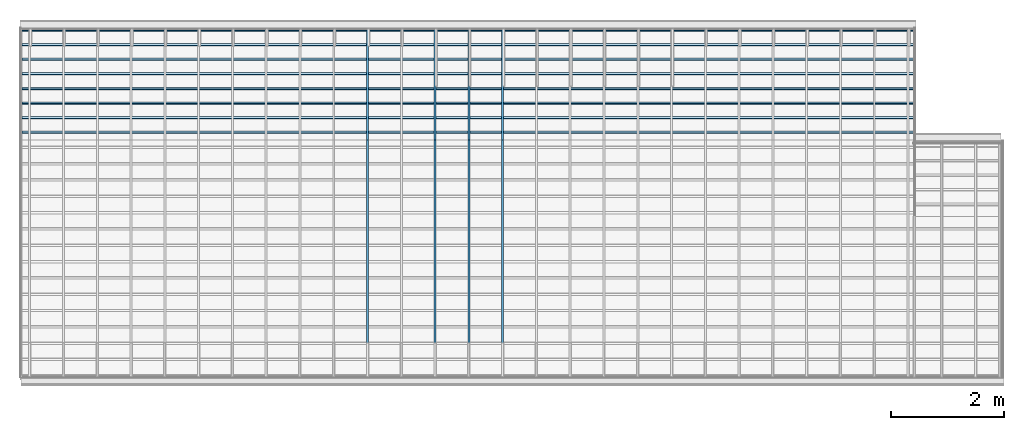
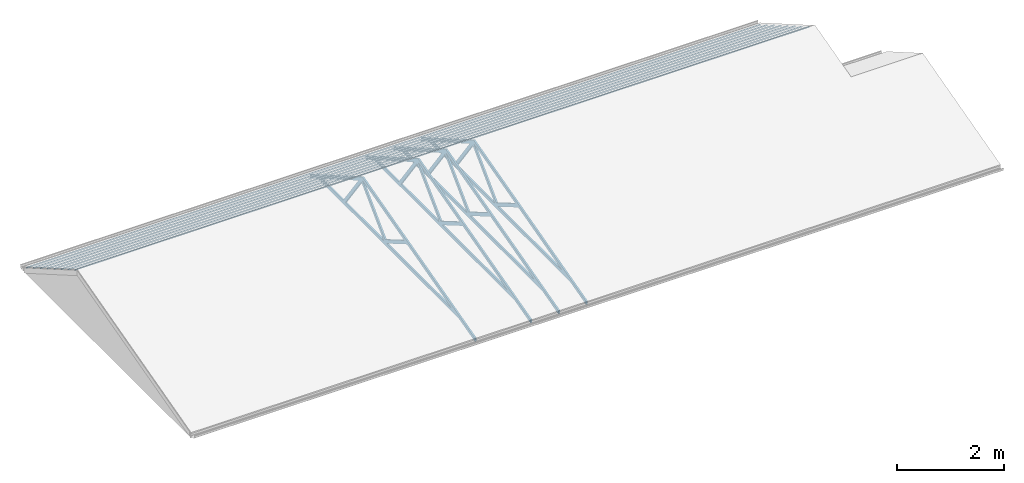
# One storey, part 5 of 12: 5 slabs.
"""IFC2X3 building model written with IfcOpenShell, lengths in millimetres."""

from ifc_helpers import new_model, entity, si_unit, converted_unit, money_unit, direction, frame, origin_with_axes, place, context, subcontext, project, spatial, faceted_brep, source, transform, mapped, material, type_object, element, save


model = new_model("IFC2X3")

# Units and contexts
model_context = context("Model", 3, precision=1e-05, world=origin_with_axes(), true_north=direction((0.0, 1.0)))
body_context = subcontext(model_context, "Body", "Model", "MODEL_VIEW")
ifc_project = project(units=[si_unit("LENGTHUNIT", "METRE", prefix="MILLI"), si_unit("AREAUNIT", "SQUARE_METRE"), si_unit("VOLUMEUNIT", "CUBIC_METRE"), converted_unit("PLANEANGLEUNIT", "DEGREE", entity("IfcPlaneAngleMeasure", 0.0174532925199), si_unit("PLANEANGLEUNIT", "RADIAN"), dimensions=[0, 0, 0, 0, 0, 0, 0]), si_unit("SOLIDANGLEUNIT", "STERADIAN"), money_unit("AUD"), si_unit("TIMEUNIT", "SECOND"), si_unit("MASSUNIT", "GRAM"), si_unit("THERMODYNAMICTEMPERATUREUNIT", "DEGREE_CELSIUS"), si_unit("LUMINOUSINTENSITYUNIT", "LUMEN")], contexts=[model_context])

# Site, building, storey
site_placement = place(None, origin_with_axes())
site = spatial("IfcSite", under=ifc_project, at=site_placement, Name="Lot 1. East Hills", CompositionType="ELEMENT")
building_placement = place(site_placement, origin_with_axes())
building = spatial("IfcBuilding", under=site, at=building_placement, Name="Proposed Units 7 & 8", CompositionType="ELEMENT")
storey_placement = place(building_placement, frame((0.0, 0.0, 8395.0), z_axis=(0.0, 0.0, 1.0), x_axis=(1.0, 0.0, 0.0)))
storey = spatial("IfcBuildingStorey", under=building, at=storey_placement, Name="Roof", CompositionType="ELEMENT", Elevation=8395.0)

# Slabs
ifc_material = material(Name="50 %")
slab_type_1 = type_object("IfcSlabType", Name="Roof Trust large", PredefinedType="NOTDEFINED")
slab_1_placement = place(storey_placement, frame((8555.0, -3.11548540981, 0.0), z_axis=(0.0, 0.0, 1.0), x_axis=(-1.0, 0.0, 0.0)))
element("IfcSlab", 1, at=slab_1_placement, inside=storey, type_object=slab_type_1, material=ifc_material, Name="TRUST_13 - Roof Trust large - object -", PredefinedType="ROOF", context=body_context, shape_type="Brep", body=[
    faceted_brep([(0.0, 600.020035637, -160.773638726), (0.0, 600.020035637, -160.673638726), (35.0, 600.020035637, -160.673638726), (35.0, 600.020035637, -160.773638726), (0.0, 599.923443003, -160.747757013), (0.0, 0.0966282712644, -0.0259204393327), (0.0, 3.56373446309e-05, -3.87262417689e-05), (0.0, -0.0999643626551, -3.87262417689e-05), (0.0, -5264.89996436, -3.87262399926e-05), (0.0, -5264.99996436, -3.87262399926e-05), (0.0, -5265.08656691, -0.050038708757), (0.0, -5564.91336181, -173.155038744), (0.0, -5564.99996436, -173.205038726), (0.0, -5564.99996436, -173.105038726), (0.0, -5564.99996436, -86.7025387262), (0.0, -5564.99996436, -86.6025387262), (0.0, -5564.91336181, -86.552538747), (0.0, -3606.74656692, 1043.99496129), (0.0, -3606.65996436, 1044.04496127), (0.0, -3606.56337176, 1044.01907945), (0.0, 599.923443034, -83.102056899), (0.0, 600.020035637, -83.1279387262), (0.0, 600.020035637, -83.2279387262), (0.0, -279.899964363, 74.9999612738), (0.0, -279.996556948, 75.0258431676), (0.0, -1937.88337178, 519.25507938), (0.0, -1937.97996436, 519.280961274), (0.0, -1938.06635104, 519.230589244), (0.0, -2699.82357768, 75.0503333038), (0.0, -2699.90996436, 74.9999612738), (0.0, -2699.80996436, 74.9999612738), (0.0, -279.999964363, 74.9999612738), (0.0, -2039.93996436, 546.601961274), (0.0, -2040.03655692, 546.627843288), (0.0, -3595.96337181, 963.539079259), (0.0, -3596.05996436, 963.564961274), (0.0, -3595.98895391, 963.494551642), (0.0, -2755.09097481, 129.711370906), (0.0, -2755.01996436, 129.640961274), (0.0, -2754.93357759, 129.691333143), (0.0, -2040.02635114, 546.551589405), (0.0, -2806.42996436, 74.9999612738), (0.0, -2806.50097476, 75.0703709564), (0.0, -3640.32895396, 901.844551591), (0.0, -3640.39996436, 901.914961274), (0.0, -3640.45835547, 901.833779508), (0.0, -4235.11157326, 75.0811430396), (0.0, -4235.16996436, 74.9999612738), (0.0, -4235.06996436, 74.9999612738), (0.0, -2806.52996436, 74.9999612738), (0.0, -3751.98996436, 873.534961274), (0.0, -3752.07656695, 873.48496135), (0.0, -5135.00936178, 75.0499611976), (0.0, -5135.09596436, 74.9999612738), (0.0, -5134.99596436, 74.9999612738), (0.0, -4326.44996436, 74.9999612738), (0.0, -4326.34996436, 74.9999612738), (0.0, -4326.29157308, 75.0811429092), (0.0, -3752.04835565, 873.453779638), (35.0, 600.020035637, -83.2279387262), (35.0, 600.020035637, -83.1279387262), (35.0, 599.923443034, -83.102056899), (35.0, -3606.56337176, 1044.01907945), (35.0, -3606.65996436, 1044.04496127), (35.0, -3606.74656692, 1043.99496129), (35.0, -5564.91336181, -86.552538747), (35.0, -5564.99996436, -86.6025387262), (35.0, -5564.99996436, -86.7025387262), (35.0, -5564.99996436, -173.105038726), (35.0, -5564.99996436, -173.205038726), (35.0, -5564.91336181, -173.155038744), (35.0, -5265.08656691, -0.050038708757), (35.0, -5264.99996436, -3.87262399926e-05), (35.0, -5264.89996436, -3.87262399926e-05), (35.0, -0.0999643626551, -3.87262417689e-05), (35.0, 3.56373446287e-05, -3.87262417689e-05), (35.0, 0.0966282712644, -0.0259204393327), (35.0, 599.923443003, -160.747757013), (35.0, -279.899964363, 74.9999612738), (35.0, -279.999964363, 74.9999612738), (35.0, -2699.80996436, 74.9999612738), (35.0, -2699.90996436, 74.9999612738), (35.0, -2699.82357768, 75.0503333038), (35.0, -1938.06635104, 519.230589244), (35.0, -1937.97996436, 519.280961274), (35.0, -1937.88337178, 519.25507938), (35.0, -279.996556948, 75.0258431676), (35.0, -2039.93996436, 546.601961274), (35.0, -2040.02635114, 546.551589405), (35.0, -2754.93357759, 129.691333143), (35.0, -2755.01996436, 129.640961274), (35.0, -2755.09097481, 129.711370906), (35.0, -3595.98895391, 963.494551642), (35.0, -3596.05996436, 963.564961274), (35.0, -3595.96337181, 963.539079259), (35.0, -2040.03655692, 546.627843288), (35.0, -2806.42996436, 74.9999612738), (35.0, -2806.52996436, 74.9999612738), (35.0, -4235.06996436, 74.9999612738), (35.0, -4235.16996436, 74.9999612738), (35.0, -4235.11157326, 75.0811430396), (35.0, -3640.45835547, 901.833779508), (35.0, -3640.39996436, 901.914961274), (35.0, -3640.32895396, 901.844551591), (35.0, -2806.50097476, 75.0703709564), (35.0, -3751.98996436, 873.534961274), (35.0, -3752.04835565, 873.453779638), (35.0, -4326.29157308, 75.0811429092), (35.0, -4326.34996436, 74.9999612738), (35.0, -4326.44996436, 74.9999612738), (35.0, -5134.99596436, 74.9999612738), (35.0, -5135.09596436, 74.9999612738), (35.0, -5135.00936178, 75.0499611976), (35.0, -3752.07656695, 873.48496135)], [[[0, 1, 2, 3]], [[0, 4, 5, 6, 7, 8, 9, 10, 11, 12, 13, 14, 15, 16, 17, 18, 19, 20, 21, 22, 1], [23, 24, 25, 26, 27, 28, 29, 30, 31], [32, 33, 34, 35, 36, 37, 38, 39, 40], [41, 42, 43, 44, 45, 46, 47, 48, 49], [50, 51, 52, 53, 54, 55, 56, 57, 58]], [[1, 22, 59, 2]], [[3, 2, 59, 60, 61, 62, 63, 64, 65, 66, 67, 68, 69, 70, 71, 72, 73, 74, 75, 76, 77], [78, 79, 80, 81, 82, 83, 84, 85, 86], [87, 88, 89, 90, 91, 92, 93, 94, 95], [96, 97, 98, 99, 100, 101, 102, 103, 104], [105, 106, 107, 108, 109, 110, 111, 112, 113]], [[4, 0, 3, 77]], [[5, 4, 77, 76]], [[6, 5, 76, 75]], [[7, 6, 75, 74]], [[8, 7, 74, 73]], [[9, 8, 73, 72]], [[10, 9, 72, 71]], [[11, 10, 71, 70]], [[12, 11, 70, 69]], [[13, 12, 69, 68]], [[14, 13, 68, 67]], [[15, 14, 67, 66]], [[16, 15, 66, 65]], [[17, 16, 65, 64]], [[18, 17, 64, 63]], [[19, 18, 63, 62]], [[20, 19, 62, 61]], [[21, 20, 61, 60]], [[22, 21, 60, 59]], [[24, 23, 78, 86]], [[25, 24, 86, 85]], [[26, 25, 85, 84]], [[27, 26, 84, 83]], [[28, 27, 83, 82]], [[29, 28, 82, 81]], [[30, 29, 81, 80]], [[31, 30, 80, 79]], [[23, 31, 79, 78]], [[33, 32, 87, 95]], [[34, 33, 95, 94]], [[35, 34, 94, 93]], [[36, 35, 93, 92]], [[37, 36, 92, 91]], [[38, 37, 91, 90]], [[39, 38, 90, 89]], [[40, 39, 89, 88]], [[32, 40, 88, 87]], [[42, 41, 96, 104]], [[43, 42, 104, 103]], [[44, 43, 103, 102]], [[45, 44, 102, 101]], [[46, 45, 101, 100]], [[47, 46, 100, 99]], [[48, 47, 99, 98]], [[49, 48, 98, 97]], [[41, 49, 97, 96]], [[51, 50, 105, 113]], [[52, 51, 113, 112]], [[53, 52, 112, 111]], [[54, 53, 111, 110]], [[55, 54, 110, 109]], [[56, 55, 109, 108]], [[57, 56, 108, 107]], [[58, 57, 107, 106]], [[50, 58, 106, 105]]]),
])
slab_2_placement = place(storey_placement, frame((7955.0, -3.11548540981, 0.0), z_axis=(0.0, 0.0, 1.0), x_axis=(-1.0, 0.0, 0.0)))
element("IfcSlab", 2, at=slab_2_placement, inside=storey, type_object=slab_type_1, material=ifc_material, Name="TRUST_14 - Roof Trust large - object -", PredefinedType="ROOF", context=body_context, shape_type="Brep", body=[
    faceted_brep([(0.0, 600.020035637, -160.773638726), (0.0, 600.020035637, -160.673638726), (35.0, 600.020035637, -160.673638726), (35.0, 600.020035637, -160.773638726), (0.0, 599.923443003, -160.747757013), (0.0, 0.0966282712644, -0.0259204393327), (0.0, 3.56373446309e-05, -3.87262417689e-05), (0.0, -0.0999643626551, -3.87262417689e-05), (0.0, -5264.89996436, -3.87262399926e-05), (0.0, -5264.99996436, -3.87262399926e-05), (0.0, -5265.08656691, -0.050038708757), (0.0, -5564.91336181, -173.155038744), (0.0, -5564.99996436, -173.205038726), (0.0, -5564.99996436, -173.105038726), (0.0, -5564.99996436, -86.7025387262), (0.0, -5564.99996436, -86.6025387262), (0.0, -5564.91336181, -86.552538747), (0.0, -3606.74656692, 1043.99496129), (0.0, -3606.65996436, 1044.04496127), (0.0, -3606.56337176, 1044.01907945), (0.0, 599.923443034, -83.102056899), (0.0, 600.020035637, -83.1279387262), (0.0, 600.020035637, -83.2279387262), (0.0, -279.899964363, 74.9999612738), (0.0, -279.996556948, 75.0258431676), (0.0, -1937.88337178, 519.25507938), (0.0, -1937.97996436, 519.280961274), (0.0, -1938.06635104, 519.230589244), (0.0, -2699.82357768, 75.0503333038), (0.0, -2699.90996436, 74.9999612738), (0.0, -2699.80996436, 74.9999612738), (0.0, -279.999964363, 74.9999612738), (0.0, -2039.93996436, 546.601961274), (0.0, -2040.03655692, 546.627843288), (0.0, -3595.96337181, 963.539079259), (0.0, -3596.05996436, 963.564961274), (0.0, -3595.98895391, 963.494551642), (0.0, -2755.09097481, 129.711370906), (0.0, -2755.01996436, 129.640961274), (0.0, -2754.93357759, 129.691333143), (0.0, -2040.02635114, 546.551589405), (0.0, -2806.42996436, 74.9999612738), (0.0, -2806.50097476, 75.0703709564), (0.0, -3640.32895396, 901.844551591), (0.0, -3640.39996436, 901.914961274), (0.0, -3640.45835547, 901.833779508), (0.0, -4235.11157326, 75.0811430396), (0.0, -4235.16996436, 74.9999612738), (0.0, -4235.06996436, 74.9999612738), (0.0, -2806.52996436, 74.9999612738), (0.0, -3751.98996436, 873.534961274), (0.0, -3752.07656695, 873.48496135), (0.0, -5135.00936178, 75.0499611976), (0.0, -5135.09596436, 74.9999612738), (0.0, -5134.99596436, 74.9999612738), (0.0, -4326.44996436, 74.9999612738), (0.0, -4326.34996436, 74.9999612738), (0.0, -4326.29157308, 75.0811429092), (0.0, -3752.04835565, 873.453779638), (35.0, 600.020035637, -83.2279387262), (35.0, 600.020035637, -83.1279387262), (35.0, 599.923443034, -83.102056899), (35.0, -3606.56337176, 1044.01907945), (35.0, -3606.65996436, 1044.04496127), (35.0, -3606.74656692, 1043.99496129), (35.0, -5564.91336181, -86.552538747), (35.0, -5564.99996436, -86.6025387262), (35.0, -5564.99996436, -86.7025387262), (35.0, -5564.99996436, -173.105038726), (35.0, -5564.99996436, -173.205038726), (35.0, -5564.91336181, -173.155038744), (35.0, -5265.08656691, -0.050038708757), (35.0, -5264.99996436, -3.87262399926e-05), (35.0, -5264.89996436, -3.87262399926e-05), (35.0, -0.0999643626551, -3.87262417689e-05), (35.0, 3.56373446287e-05, -3.87262417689e-05), (35.0, 0.0966282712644, -0.0259204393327), (35.0, 599.923443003, -160.747757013), (35.0, -279.899964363, 74.9999612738), (35.0, -279.999964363, 74.9999612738), (35.0, -2699.80996436, 74.9999612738), (35.0, -2699.90996436, 74.9999612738), (35.0, -2699.82357768, 75.0503333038), (35.0, -1938.06635104, 519.230589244), (35.0, -1937.97996436, 519.280961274), (35.0, -1937.88337178, 519.25507938), (35.0, -279.996556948, 75.0258431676), (35.0, -2039.93996436, 546.601961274), (35.0, -2040.02635114, 546.551589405), (35.0, -2754.93357759, 129.691333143), (35.0, -2755.01996436, 129.640961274), (35.0, -2755.09097481, 129.711370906), (35.0, -3595.98895391, 963.494551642), (35.0, -3596.05996436, 963.564961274), (35.0, -3595.96337181, 963.539079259), (35.0, -2040.03655692, 546.627843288), (35.0, -2806.42996436, 74.9999612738), (35.0, -2806.52996436, 74.9999612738), (35.0, -4235.06996436, 74.9999612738), (35.0, -4235.16996436, 74.9999612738), (35.0, -4235.11157326, 75.0811430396), (35.0, -3640.45835547, 901.833779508), (35.0, -3640.39996436, 901.914961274), (35.0, -3640.32895396, 901.844551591), (35.0, -2806.50097476, 75.0703709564), (35.0, -3751.98996436, 873.534961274), (35.0, -3752.04835565, 873.453779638), (35.0, -4326.29157308, 75.0811429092), (35.0, -4326.34996436, 74.9999612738), (35.0, -4326.44996436, 74.9999612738), (35.0, -5134.99596436, 74.9999612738), (35.0, -5135.09596436, 74.9999612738), (35.0, -5135.00936178, 75.0499611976), (35.0, -3752.07656695, 873.48496135)], [[[0, 1, 2, 3]], [[0, 4, 5, 6, 7, 8, 9, 10, 11, 12, 13, 14, 15, 16, 17, 18, 19, 20, 21, 22, 1], [23, 24, 25, 26, 27, 28, 29, 30, 31], [32, 33, 34, 35, 36, 37, 38, 39, 40], [41, 42, 43, 44, 45, 46, 47, 48, 49], [50, 51, 52, 53, 54, 55, 56, 57, 58]], [[1, 22, 59, 2]], [[3, 2, 59, 60, 61, 62, 63, 64, 65, 66, 67, 68, 69, 70, 71, 72, 73, 74, 75, 76, 77], [78, 79, 80, 81, 82, 83, 84, 85, 86], [87, 88, 89, 90, 91, 92, 93, 94, 95], [96, 97, 98, 99, 100, 101, 102, 103, 104], [105, 106, 107, 108, 109, 110, 111, 112, 113]], [[4, 0, 3, 77]], [[5, 4, 77, 76]], [[6, 5, 76, 75]], [[7, 6, 75, 74]], [[8, 7, 74, 73]], [[9, 8, 73, 72]], [[10, 9, 72, 71]], [[11, 10, 71, 70]], [[12, 11, 70, 69]], [[13, 12, 69, 68]], [[14, 13, 68, 67]], [[15, 14, 67, 66]], [[16, 15, 66, 65]], [[17, 16, 65, 64]], [[18, 17, 64, 63]], [[19, 18, 63, 62]], [[20, 19, 62, 61]], [[21, 20, 61, 60]], [[22, 21, 60, 59]], [[24, 23, 78, 86]], [[25, 24, 86, 85]], [[26, 25, 85, 84]], [[27, 26, 84, 83]], [[28, 27, 83, 82]], [[29, 28, 82, 81]], [[30, 29, 81, 80]], [[31, 30, 80, 79]], [[23, 31, 79, 78]], [[33, 32, 87, 95]], [[34, 33, 95, 94]], [[35, 34, 94, 93]], [[36, 35, 93, 92]], [[37, 36, 92, 91]], [[38, 37, 91, 90]], [[39, 38, 90, 89]], [[40, 39, 89, 88]], [[32, 40, 88, 87]], [[42, 41, 96, 104]], [[43, 42, 104, 103]], [[44, 43, 103, 102]], [[45, 44, 102, 101]], [[46, 45, 101, 100]], [[47, 46, 100, 99]], [[48, 47, 99, 98]], [[49, 48, 98, 97]], [[41, 49, 97, 96]], [[51, 50, 105, 113]], [[52, 51, 113, 112]], [[53, 52, 112, 111]], [[54, 53, 111, 110]], [[55, 54, 110, 109]], [[56, 55, 109, 108]], [[57, 56, 108, 107]], [[58, 57, 107, 106]], [[50, 58, 106, 105]]]),
])
slab_3_placement = place(storey_placement, frame((7355.0, -3.11548540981, 0.0), z_axis=(0.0, 0.0, 1.0), x_axis=(-1.0, 0.0, 0.0)))
element("IfcSlab", 3, at=slab_3_placement, inside=storey, type_object=slab_type_1, material=ifc_material, Name="TRUST_15 - Roof Trust large - object -", PredefinedType="ROOF", context=body_context, shape_type="Brep", body=[
    faceted_brep([(0.0, 600.020035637, -160.773638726), (0.0, 600.020035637, -160.673638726), (35.0, 600.020035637, -160.673638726), (35.0, 600.020035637, -160.773638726), (0.0, 599.923443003, -160.747757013), (0.0, 0.0966282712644, -0.0259204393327), (0.0, 3.56373446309e-05, -3.87262417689e-05), (0.0, -0.0999643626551, -3.87262417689e-05), (0.0, -5264.89996436, -3.87262399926e-05), (0.0, -5264.99996436, -3.87262399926e-05), (0.0, -5265.08656691, -0.050038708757), (0.0, -5564.91336181, -173.155038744), (0.0, -5564.99996436, -173.205038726), (0.0, -5564.99996436, -173.105038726), (0.0, -5564.99996436, -86.7025387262), (0.0, -5564.99996436, -86.6025387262), (0.0, -5564.91336181, -86.552538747), (0.0, -3606.74656692, 1043.99496129), (0.0, -3606.65996436, 1044.04496127), (0.0, -3606.56337176, 1044.01907945), (0.0, 599.923443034, -83.102056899), (0.0, 600.020035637, -83.1279387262), (0.0, 600.020035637, -83.2279387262), (0.0, -279.899964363, 74.9999612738), (0.0, -279.996556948, 75.0258431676), (0.0, -1937.88337178, 519.25507938), (0.0, -1937.97996436, 519.280961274), (0.0, -1938.06635104, 519.230589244), (0.0, -2699.82357768, 75.0503333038), (0.0, -2699.90996436, 74.9999612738), (0.0, -2699.80996436, 74.9999612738), (0.0, -279.999964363, 74.9999612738), (0.0, -2039.93996436, 546.601961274), (0.0, -2040.03655692, 546.627843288), (0.0, -3595.96337181, 963.539079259), (0.0, -3596.05996436, 963.564961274), (0.0, -3595.98895391, 963.494551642), (0.0, -2755.09097481, 129.711370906), (0.0, -2755.01996436, 129.640961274), (0.0, -2754.93357759, 129.691333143), (0.0, -2040.02635114, 546.551589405), (0.0, -2806.42996436, 74.9999612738), (0.0, -2806.50097476, 75.0703709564), (0.0, -3640.32895396, 901.844551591), (0.0, -3640.39996436, 901.914961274), (0.0, -3640.45835547, 901.833779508), (0.0, -4235.11157326, 75.0811430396), (0.0, -4235.16996436, 74.9999612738), (0.0, -4235.06996436, 74.9999612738), (0.0, -2806.52996436, 74.9999612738), (0.0, -3751.98996436, 873.534961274), (0.0, -3752.07656695, 873.48496135), (0.0, -5135.00936178, 75.0499611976), (0.0, -5135.09596436, 74.9999612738), (0.0, -5134.99596436, 74.9999612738), (0.0, -4326.44996436, 74.9999612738), (0.0, -4326.34996436, 74.9999612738), (0.0, -4326.29157308, 75.0811429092), (0.0, -3752.04835565, 873.453779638), (35.0, 600.020035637, -83.2279387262), (35.0, 600.020035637, -83.1279387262), (35.0, 599.923443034, -83.102056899), (35.0, -3606.56337176, 1044.01907945), (35.0, -3606.65996436, 1044.04496127), (35.0, -3606.74656692, 1043.99496129), (35.0, -5564.91336181, -86.552538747), (35.0, -5564.99996436, -86.6025387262), (35.0, -5564.99996436, -86.7025387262), (35.0, -5564.99996436, -173.105038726), (35.0, -5564.99996436, -173.205038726), (35.0, -5564.91336181, -173.155038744), (35.0, -5265.08656691, -0.050038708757), (35.0, -5264.99996436, -3.87262399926e-05), (35.0, -5264.89996436, -3.87262399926e-05), (35.0, -0.0999643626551, -3.87262417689e-05), (35.0, 3.56373446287e-05, -3.87262417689e-05), (35.0, 0.0966282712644, -0.0259204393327), (35.0, 599.923443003, -160.747757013), (35.0, -279.899964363, 74.9999612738), (35.0, -279.999964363, 74.9999612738), (35.0, -2699.80996436, 74.9999612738), (35.0, -2699.90996436, 74.9999612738), (35.0, -2699.82357768, 75.0503333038), (35.0, -1938.06635104, 519.230589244), (35.0, -1937.97996436, 519.280961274), (35.0, -1937.88337178, 519.25507938), (35.0, -279.996556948, 75.0258431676), (35.0, -2039.93996436, 546.601961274), (35.0, -2040.02635114, 546.551589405), (35.0, -2754.93357759, 129.691333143), (35.0, -2755.01996436, 129.640961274), (35.0, -2755.09097481, 129.711370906), (35.0, -3595.98895391, 963.494551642), (35.0, -3596.05996436, 963.564961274), (35.0, -3595.96337181, 963.539079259), (35.0, -2040.03655692, 546.627843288), (35.0, -2806.42996436, 74.9999612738), (35.0, -2806.52996436, 74.9999612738), (35.0, -4235.06996436, 74.9999612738), (35.0, -4235.16996436, 74.9999612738), (35.0, -4235.11157326, 75.0811430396), (35.0, -3640.45835547, 901.833779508), (35.0, -3640.39996436, 901.914961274), (35.0, -3640.32895396, 901.844551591), (35.0, -2806.50097476, 75.0703709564), (35.0, -3751.98996436, 873.534961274), (35.0, -3752.04835565, 873.453779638), (35.0, -4326.29157308, 75.0811429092), (35.0, -4326.34996436, 74.9999612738), (35.0, -4326.44996436, 74.9999612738), (35.0, -5134.99596436, 74.9999612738), (35.0, -5135.09596436, 74.9999612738), (35.0, -5135.00936178, 75.0499611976), (35.0, -3752.07656695, 873.48496135)], [[[0, 1, 2, 3]], [[0, 4, 5, 6, 7, 8, 9, 10, 11, 12, 13, 14, 15, 16, 17, 18, 19, 20, 21, 22, 1], [23, 24, 25, 26, 27, 28, 29, 30, 31], [32, 33, 34, 35, 36, 37, 38, 39, 40], [41, 42, 43, 44, 45, 46, 47, 48, 49], [50, 51, 52, 53, 54, 55, 56, 57, 58]], [[1, 22, 59, 2]], [[3, 2, 59, 60, 61, 62, 63, 64, 65, 66, 67, 68, 69, 70, 71, 72, 73, 74, 75, 76, 77], [78, 79, 80, 81, 82, 83, 84, 85, 86], [87, 88, 89, 90, 91, 92, 93, 94, 95], [96, 97, 98, 99, 100, 101, 102, 103, 104], [105, 106, 107, 108, 109, 110, 111, 112, 113]], [[4, 0, 3, 77]], [[5, 4, 77, 76]], [[6, 5, 76, 75]], [[7, 6, 75, 74]], [[8, 7, 74, 73]], [[9, 8, 73, 72]], [[10, 9, 72, 71]], [[11, 10, 71, 70]], [[12, 11, 70, 69]], [[13, 12, 69, 68]], [[14, 13, 68, 67]], [[15, 14, 67, 66]], [[16, 15, 66, 65]], [[17, 16, 65, 64]], [[18, 17, 64, 63]], [[19, 18, 63, 62]], [[20, 19, 62, 61]], [[21, 20, 61, 60]], [[22, 21, 60, 59]], [[24, 23, 78, 86]], [[25, 24, 86, 85]], [[26, 25, 85, 84]], [[27, 26, 84, 83]], [[28, 27, 83, 82]], [[29, 28, 82, 81]], [[30, 29, 81, 80]], [[31, 30, 80, 79]], [[23, 31, 79, 78]], [[33, 32, 87, 95]], [[34, 33, 95, 94]], [[35, 34, 94, 93]], [[36, 35, 93, 92]], [[37, 36, 92, 91]], [[38, 37, 91, 90]], [[39, 38, 90, 89]], [[40, 39, 89, 88]], [[32, 40, 88, 87]], [[42, 41, 96, 104]], [[43, 42, 104, 103]], [[44, 43, 103, 102]], [[45, 44, 102, 101]], [[46, 45, 101, 100]], [[47, 46, 100, 99]], [[48, 47, 99, 98]], [[49, 48, 98, 97]], [[41, 49, 97, 96]], [[51, 50, 105, 113]], [[52, 51, 113, 112]], [[53, 52, 112, 111]], [[54, 53, 111, 110]], [[55, 54, 110, 109]], [[56, 55, 109, 108]], [[57, 56, 108, 107]], [[58, 57, 107, 106]], [[50, 58, 106, 105]]]),
])
slab_4_placement = place(storey_placement, frame((6155.0, -3.11548540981, 0.0), z_axis=(0.0, 0.0, 1.0), x_axis=(-1.0, 0.0, 0.0)))
element("IfcSlab", 4, at=slab_4_placement, inside=storey, type_object=slab_type_1, material=ifc_material, Name="TRUST_17 - Roof Trust large - object -", PredefinedType="ROOF", context=body_context, shape_type="Brep", body=[
    faceted_brep([(0.0, 600.020035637, -160.773638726), (0.0, 600.020035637, -160.673638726), (35.0, 600.020035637, -160.673638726), (35.0, 600.020035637, -160.773638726), (0.0, 599.923443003, -160.747757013), (0.0, 0.0966282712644, -0.0259204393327), (0.0, 3.56373446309e-05, -3.87262417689e-05), (0.0, -0.0999643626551, -3.87262417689e-05), (0.0, -5264.89996436, -3.87262399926e-05), (0.0, -5264.99996436, -3.87262399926e-05), (0.0, -5265.08656691, -0.050038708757), (0.0, -5564.91336181, -173.155038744), (0.0, -5564.99996436, -173.205038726), (0.0, -5564.99996436, -173.105038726), (0.0, -5564.99996436, -86.7025387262), (0.0, -5564.99996436, -86.6025387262), (0.0, -5564.91336181, -86.552538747), (0.0, -3606.74656692, 1043.99496129), (0.0, -3606.65996436, 1044.04496127), (0.0, -3606.56337176, 1044.01907945), (0.0, 599.923443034, -83.102056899), (0.0, 600.020035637, -83.1279387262), (0.0, 600.020035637, -83.2279387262), (0.0, -279.899964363, 74.9999612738), (0.0, -279.996556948, 75.0258431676), (0.0, -1937.88337178, 519.25507938), (0.0, -1937.97996436, 519.280961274), (0.0, -1938.06635104, 519.230589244), (0.0, -2699.82357768, 75.0503333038), (0.0, -2699.90996436, 74.9999612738), (0.0, -2699.80996436, 74.9999612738), (0.0, -279.999964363, 74.9999612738), (0.0, -2039.93996436, 546.601961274), (0.0, -2040.03655692, 546.627843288), (0.0, -3595.96337181, 963.539079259), (0.0, -3596.05996436, 963.564961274), (0.0, -3595.98895391, 963.494551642), (0.0, -2755.09097481, 129.711370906), (0.0, -2755.01996436, 129.640961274), (0.0, -2754.93357759, 129.691333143), (0.0, -2040.02635114, 546.551589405), (0.0, -2806.42996436, 74.9999612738), (0.0, -2806.50097476, 75.0703709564), (0.0, -3640.32895396, 901.844551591), (0.0, -3640.39996436, 901.914961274), (0.0, -3640.45835547, 901.833779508), (0.0, -4235.11157326, 75.0811430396), (0.0, -4235.16996436, 74.9999612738), (0.0, -4235.06996436, 74.9999612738), (0.0, -2806.52996436, 74.9999612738), (0.0, -3751.98996436, 873.534961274), (0.0, -3752.07656695, 873.48496135), (0.0, -5135.00936178, 75.0499611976), (0.0, -5135.09596436, 74.9999612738), (0.0, -5134.99596436, 74.9999612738), (0.0, -4326.44996436, 74.9999612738), (0.0, -4326.34996436, 74.9999612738), (0.0, -4326.29157308, 75.0811429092), (0.0, -3752.04835565, 873.453779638), (35.0, 600.020035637, -83.2279387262), (35.0, 600.020035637, -83.1279387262), (35.0, 599.923443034, -83.102056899), (35.0, -3606.56337176, 1044.01907945), (35.0, -3606.65996436, 1044.04496127), (35.0, -3606.74656692, 1043.99496129), (35.0, -5564.91336181, -86.552538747), (35.0, -5564.99996436, -86.6025387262), (35.0, -5564.99996436, -86.7025387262), (35.0, -5564.99996436, -173.105038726), (35.0, -5564.99996436, -173.205038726), (35.0, -5564.91336181, -173.155038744), (35.0, -5265.08656691, -0.050038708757), (35.0, -5264.99996436, -3.87262399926e-05), (35.0, -5264.89996436, -3.87262399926e-05), (35.0, -0.0999643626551, -3.87262417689e-05), (35.0, 3.56373446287e-05, -3.87262417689e-05), (35.0, 0.0966282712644, -0.0259204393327), (35.0, 599.923443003, -160.747757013), (35.0, -279.899964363, 74.9999612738), (35.0, -279.999964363, 74.9999612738), (35.0, -2699.80996436, 74.9999612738), (35.0, -2699.90996436, 74.9999612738), (35.0, -2699.82357768, 75.0503333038), (35.0, -1938.06635104, 519.230589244), (35.0, -1937.97996436, 519.280961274), (35.0, -1937.88337178, 519.25507938), (35.0, -279.996556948, 75.0258431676), (35.0, -2039.93996436, 546.601961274), (35.0, -2040.02635114, 546.551589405), (35.0, -2754.93357759, 129.691333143), (35.0, -2755.01996436, 129.640961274), (35.0, -2755.09097481, 129.711370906), (35.0, -3595.98895391, 963.494551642), (35.0, -3596.05996436, 963.564961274), (35.0, -3595.96337181, 963.539079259), (35.0, -2040.03655692, 546.627843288), (35.0, -2806.42996436, 74.9999612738), (35.0, -2806.52996436, 74.9999612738), (35.0, -4235.06996436, 74.9999612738), (35.0, -4235.16996436, 74.9999612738), (35.0, -4235.11157326, 75.0811430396), (35.0, -3640.45835547, 901.833779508), (35.0, -3640.39996436, 901.914961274), (35.0, -3640.32895396, 901.844551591), (35.0, -2806.50097476, 75.0703709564), (35.0, -3751.98996436, 873.534961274), (35.0, -3752.04835565, 873.453779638), (35.0, -4326.29157308, 75.0811429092), (35.0, -4326.34996436, 74.9999612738), (35.0, -4326.44996436, 74.9999612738), (35.0, -5134.99596436, 74.9999612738), (35.0, -5135.09596436, 74.9999612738), (35.0, -5135.00936178, 75.0499611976), (35.0, -3752.07656695, 873.48496135)], [[[0, 1, 2, 3]], [[0, 4, 5, 6, 7, 8, 9, 10, 11, 12, 13, 14, 15, 16, 17, 18, 19, 20, 21, 22, 1], [23, 24, 25, 26, 27, 28, 29, 30, 31], [32, 33, 34, 35, 36, 37, 38, 39, 40], [41, 42, 43, 44, 45, 46, 47, 48, 49], [50, 51, 52, 53, 54, 55, 56, 57, 58]], [[1, 22, 59, 2]], [[3, 2, 59, 60, 61, 62, 63, 64, 65, 66, 67, 68, 69, 70, 71, 72, 73, 74, 75, 76, 77], [78, 79, 80, 81, 82, 83, 84, 85, 86], [87, 88, 89, 90, 91, 92, 93, 94, 95], [96, 97, 98, 99, 100, 101, 102, 103, 104], [105, 106, 107, 108, 109, 110, 111, 112, 113]], [[4, 0, 3, 77]], [[5, 4, 77, 76]], [[6, 5, 76, 75]], [[7, 6, 75, 74]], [[8, 7, 74, 73]], [[9, 8, 73, 72]], [[10, 9, 72, 71]], [[11, 10, 71, 70]], [[12, 11, 70, 69]], [[13, 12, 69, 68]], [[14, 13, 68, 67]], [[15, 14, 67, 66]], [[16, 15, 66, 65]], [[17, 16, 65, 64]], [[18, 17, 64, 63]], [[19, 18, 63, 62]], [[20, 19, 62, 61]], [[21, 20, 61, 60]], [[22, 21, 60, 59]], [[24, 23, 78, 86]], [[25, 24, 86, 85]], [[26, 25, 85, 84]], [[27, 26, 84, 83]], [[28, 27, 83, 82]], [[29, 28, 82, 81]], [[30, 29, 81, 80]], [[31, 30, 80, 79]], [[23, 31, 79, 78]], [[33, 32, 87, 95]], [[34, 33, 95, 94]], [[35, 34, 94, 93]], [[36, 35, 93, 92]], [[37, 36, 92, 91]], [[38, 37, 91, 90]], [[39, 38, 90, 89]], [[40, 39, 89, 88]], [[32, 40, 88, 87]], [[42, 41, 96, 104]], [[43, 42, 104, 103]], [[44, 43, 103, 102]], [[45, 44, 102, 101]], [[46, 45, 101, 100]], [[47, 46, 100, 99]], [[48, 47, 99, 98]], [[49, 48, 98, 97]], [[41, 49, 97, 96]], [[51, 50, 105, 113]], [[52, 51, 113, 112]], [[53, 52, 112, 111]], [[54, 53, 111, 110]], [[55, 54, 110, 109]], [[56, 55, 109, 108]], [[57, 56, 108, 107]], [[58, 57, 107, 106]], [[50, 58, 106, 105]]]),
])
slab_type_2 = type_object("IfcSlabType", Name="Battens for Roof Tiles 12", PredefinedType="NOTDEFINED")
shared_shape = source(origin_with_axes(), body_context, "Body", "Brep", [
    faceted_brep([(0.0, 0.0, 0.0), (0.0, -12.5566383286, 21.617836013), (-15830.0, -12.5566383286, 21.617836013), (-15830.0, 0.0, 0.0), (0.0, 32.8591107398, 19.0860902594), (0.0, 20.3024724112, 40.7039262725), (-15830.0, 20.3024724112, 40.7039262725), (-15830.0, 32.8591107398, 19.0860902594)], [[[0, 1, 2, 3]], [[4, 5, 1, 0]], [[1, 5, 6, 2]], [[3, 2, 6, 7]], [[0, 3, 7, 4]], [[7, 6, 5, 4]]]),
    faceted_brep([(0.0, 259.414032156, 150.679659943), (0.0, 246.857393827, 172.297495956), (-15830.0, 246.857393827, 172.297495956), (-15830.0, 259.414032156, 150.679659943), (0.0, 292.273142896, 169.765750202), (0.0, 279.716504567, 191.383586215), (-15830.0, 279.716504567, 191.383586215), (-15830.0, 292.273142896, 169.765750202)], [[[0, 1, 2, 3]], [[4, 5, 1, 0]], [[1, 5, 6, 2]], [[3, 2, 6, 7]], [[0, 3, 7, 4]], [[7, 6, 5, 4]]]),
    faceted_brep([(0.0, 518.828064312, 301.359319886), (0.0, 506.271425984, 322.977155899), (-15830.0, 506.271425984, 322.977155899), (-15830.0, 518.828064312, 301.359319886), (0.0, 551.687175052, 320.445410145), (0.0, 539.130536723, 342.063246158), (-15830.0, 539.130536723, 342.063246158), (-15830.0, 551.687175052, 320.445410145)], [[[0, 1, 2, 3]], [[4, 5, 1, 0]], [[1, 5, 6, 2]], [[3, 2, 6, 7]], [[0, 3, 7, 4]], [[7, 6, 5, 4]]]),
    faceted_brep([(0.0, 778.242096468, 452.038979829), (0.0, 765.68545814, 473.656815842), (-15830.0, 765.68545814, 473.656815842), (-15830.0, 778.242096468, 452.038979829), (0.0, 811.101207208, 471.125070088), (0.0, 798.544568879, 492.742906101), (-15830.0, 798.544568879, 492.742906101), (-15830.0, 811.101207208, 471.125070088)], [[[0, 1, 2, 3]], [[4, 5, 1, 0]], [[1, 5, 6, 2]], [[3, 2, 6, 7]], [[0, 3, 7, 4]], [[7, 6, 5, 4]]]),
    faceted_brep([(0.0, 1037.65612862, 602.718639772), (0.0, 1025.0994903, 624.336475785), (-15830.0, 1025.0994903, 624.336475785), (-15830.0, 1037.65612862, 602.718639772), (0.0, 1070.51523936, 621.804730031), (0.0, 1057.95860104, 643.422566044), (-15830.0, 1057.95860104, 643.422566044), (-15830.0, 1070.51523936, 621.804730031)], [[[0, 1, 2, 3]], [[4, 5, 1, 0]], [[1, 5, 6, 2]], [[3, 2, 6, 7]], [[0, 3, 7, 4]], [[7, 6, 5, 4]]]),
    faceted_brep([(0.0, 1297.07016078, 753.398299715), (0.0, 1284.51352245, 775.016135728), (-15830.0, 1284.51352245, 775.016135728), (-15830.0, 1297.07016078, 753.398299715), (0.0, 1329.92927152, 772.484389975), (0.0, 1317.37263319, 794.102225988), (-15830.0, 1317.37263319, 794.102225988), (-15830.0, 1329.92927152, 772.484389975)], [[[0, 1, 2, 3]], [[4, 5, 1, 0]], [[1, 5, 6, 2]], [[3, 2, 6, 7]], [[0, 3, 7, 4]], [[7, 6, 5, 4]]]),
    faceted_brep([(0.0, 1556.48419294, 904.077959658), (0.0, 1543.92755461, 925.695795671), (-15830.0, 1543.92755461, 925.695795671), (-15830.0, 1556.48419294, 904.077959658), (0.0, 1589.34330368, 923.164049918), (0.0, 1576.78666535, 944.781885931), (-15830.0, 1576.78666535, 944.781885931), (-15830.0, 1589.34330368, 923.164049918)], [[[0, 1, 2, 3]], [[4, 5, 1, 0]], [[1, 5, 6, 2]], [[3, 2, 6, 7]], [[0, 3, 7, 4]], [[7, 6, 5, 4]]]),
    faceted_brep([(0.0, 1815.89822509, 1054.7576196), (0.0, 1803.34158676, 1076.37545561), (-15830.0, 1803.34158676, 1076.37545561), (-15830.0, 1815.89822509, 1054.7576196), (0.0, 1848.75733583, 1073.84370986), (0.0, 1836.2006975, 1095.46154587), (-15830.0, 1836.2006975, 1095.46154587), (-15830.0, 1848.75733583, 1073.84370986)], [[[0, 1, 2, 3]], [[4, 5, 1, 0]], [[1, 5, 6, 2]], [[3, 2, 6, 7]], [[0, 3, 7, 4]], [[7, 6, 5, 4]]]),
])
slab_5_placement = place(storey_placement, frame((0.0, 5561.88447895, -86.6025193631), z_axis=(0.0, 0.0, 1.0), x_axis=(-1.0, 0.0, 0.0)))
element("IfcSlab", 5, at=slab_5_placement, inside=storey, type_object=slab_type_2, material=ifc_material, Name="BATTEN_01 - Battens for Roof Tiles 12 - object -", PredefinedType="ROOF", context=body_context, shape_type="MappedRepresentation", body=[
    mapped(shared_shape, transform((0.0, 0.0, 0.0))),
])

save(model, "model.ifc")
